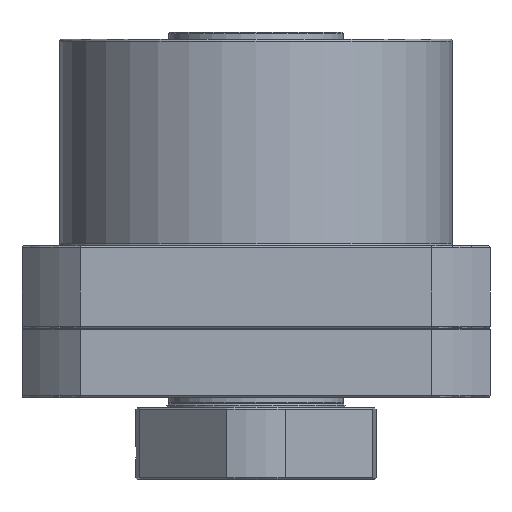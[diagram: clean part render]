
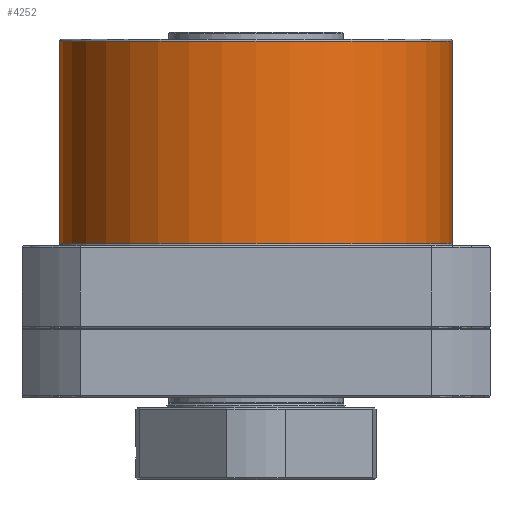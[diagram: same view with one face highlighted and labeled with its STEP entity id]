
A CAD part, front view. The second image highlights one B-rep face of the part: STEP entity #4252.
In plain terms, the highlighted cylindrical face has radius 28.5 mm (diameter 57 mm), a partial arc.
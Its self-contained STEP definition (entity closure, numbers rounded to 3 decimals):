
#1032 = CYLINDRICAL_SURFACE ( 'NONE', #13974, 28.5 ) ;
#1180 = CIRCLE ( 'NONE', #11979, 28.5 ) ;
#2727 = DIRECTION ( 'NONE',  ( 0., 0., -1. ) ) ;
#3542 = CARTESIAN_POINT ( 'NONE',  ( 28.5, 0., 12.3 ) ) ;
#3710 = VECTOR ( 'NONE', #13721, 1000. ) ;
#4252 = ADVANCED_FACE ( 'NONE', ( #14666 ), #1032, .T. ) ;
#4458 = CARTESIAN_POINT ( 'NONE',  ( 28.5, 0., 41.7 ) ) ;
#5117 = CARTESIAN_POINT ( 'NONE',  ( -28.5, 0., 42. ) ) ;
#5194 = DIRECTION ( 'NONE',  ( 1., 0., 0. ) ) ;
#5451 = VERTEX_POINT ( 'NONE', #3542 ) ;
#5587 = CARTESIAN_POINT ( 'NONE',  ( -28.5, 0., 41.7 ) ) ;
#5970 = CARTESIAN_POINT ( 'NONE',  ( 28.5, 0., 42. ) ) ;
#6719 = CARTESIAN_POINT ( 'NONE',  ( 0., 0., 12.3 ) ) ;
#6985 = ORIENTED_EDGE ( 'NONE', *, *, #14991, .T. ) ;
#7597 = CARTESIAN_POINT ( 'NONE',  ( 0., 0., 42. ) ) ;
#8018 = CIRCLE ( 'NONE', #10552, 28.5 ) ;
#9030 = VERTEX_POINT ( 'NONE', #19345 ) ;
#9882 = ORIENTED_EDGE ( 'NONE', *, *, #14331, .T. ) ;
#10075 = ORIENTED_EDGE ( 'NONE', *, *, #18387, .T. ) ;
#10552 = AXIS2_PLACEMENT_3D ( 'NONE', #14236, #18708, #5194 ) ;
#10898 = VERTEX_POINT ( 'NONE', #5587 ) ;
#11004 = EDGE_LOOP ( 'NONE', ( #19221, #9882, #6985, #10075 ) ) ;
#11979 = AXIS2_PLACEMENT_3D ( 'NONE', #6719, #15698, #14186 ) ;
#12256 = DIRECTION ( 'NONE',  ( -1., 0., 0. ) ) ;
#13721 = DIRECTION ( 'NONE',  ( 0., 0., -1. ) ) ;
#13974 = AXIS2_PLACEMENT_3D ( 'NONE', #7597, #2727, #12256 ) ;
#14171 = LINE ( 'NONE', #5117, #15323 ) ;
#14186 = DIRECTION ( 'NONE',  ( 1., 0., 0. ) ) ;
#14233 = VERTEX_POINT ( 'NONE', #4458 ) ;
#14236 = CARTESIAN_POINT ( 'NONE',  ( 0., 0., 41.7 ) ) ;
#14269 = DIRECTION ( 'NONE',  ( 0., 0., -1. ) ) ;
#14331 = EDGE_CURVE ( 'NONE', #14233, #10898, #8018, .T. ) ;
#14666 = FACE_OUTER_BOUND ( 'NONE', #11004, .T. ) ;
#14991 = EDGE_CURVE ( 'NONE', #10898, #9030, #14171, .T. ) ;
#15323 = VECTOR ( 'NONE', #14269, 1000. ) ;
#15698 = DIRECTION ( 'NONE',  ( 0., 0., 1. ) ) ;
#18387 = EDGE_CURVE ( 'NONE', #9030, #5451, #1180, .T. ) ;
#18708 = DIRECTION ( 'NONE',  ( 0., 0., -1. ) ) ;
#19095 = EDGE_CURVE ( 'NONE', #14233, #5451, #19584, .T. ) ;
#19221 = ORIENTED_EDGE ( 'NONE', *, *, #19095, .F. ) ;
#19345 = CARTESIAN_POINT ( 'NONE',  ( -28.5, 0., 12.3 ) ) ;
#19584 = LINE ( 'NONE', #5970, #3710 ) ;
